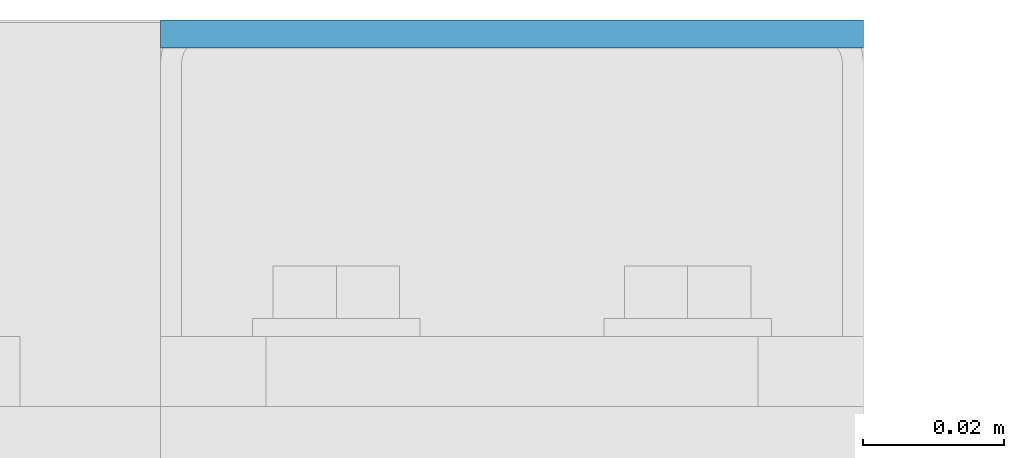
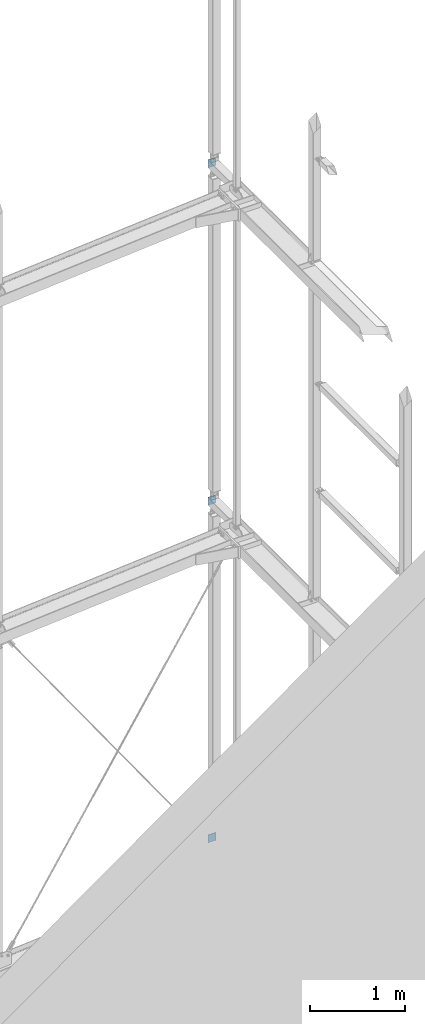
# One storey, part 93 of 271: 3 beams, 3 elements without a shape of their own.
"""IFC2X3 building model written with IfcOpenShell, lengths in millimetres."""

from ifc_helpers import new_model, si_unit, frame, origin_with_axes, origin_2d_with_axis, place, context, subcontext, project, spatial, rectangle, extrude, material, type_object, element, aggregate, save


model = new_model("IFC2X3")

# Units and contexts
model_context = context("Model", 3, precision=1e-05, world=origin_with_axes())
body_context = subcontext(model_context, "Body", "Model", "MODEL_VIEW")
ifc_project = project(units=[si_unit("LENGTHUNIT", "METRE", prefix="MILLI"), si_unit("AREAUNIT", "SQUARE_METRE"), si_unit("VOLUMEUNIT", "CUBIC_METRE"), si_unit("MASSUNIT", "GRAM", prefix="KILO"), si_unit("TIMEUNIT", "SECOND"), si_unit("PLANEANGLEUNIT", "RADIAN"), si_unit("SOLIDANGLEUNIT", "STERADIAN"), si_unit("THERMODYNAMICTEMPERATUREUNIT", "DEGREE_CELSIUS"), si_unit("LUMINOUSINTENSITYUNIT", "LUMEN")], contexts=[model_context])

# Site, building, storey
site_placement = place(None, origin_with_axes())
site = spatial("IfcSite", under=ifc_project, at=site_placement, Name="Undefined", CompositionType="ELEMENT")
building_placement = place(site_placement, origin_with_axes())
building = spatial("IfcBuilding", under=site, at=building_placement, Name="Undefined", CompositionType="ELEMENT")
storey_placement = place(building_placement, origin_with_axes())
storey = spatial("IfcBuildingStorey", under=building, at=storey_placement, Name="Undefined", CompositionType="ELEMENT", Elevation=0.0)

# Assembly, beam
assembly_1_placement = place(storey_placement, origin_with_axes())
assembly_1 = element("IfcElementAssembly", 1, at=assembly_1_placement, inside=storey, AssemblyPlace="NOTDEFINED", PredefinedType="RIGID_FRAME")
ifc_material = material(Name="STEEL/S355JR")
beam_type = type_object("IfcBeamType", Name="BL4*100", PredefinedType="NOTDEFINED")
beam_1_placement = place(assembly_1_placement, frame((12608.3756870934, 4957.32498425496, 1364.34999990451), z_axis=(0.0, 0.0, 1.0), x_axis=(1.0, 0.0, 0.0)))
beam_1 = element("IfcBeam", 2, at=beam_1_placement, type_object=beam_type, material=ifc_material, Name="BLACHA", ObjectType="BL4*100", context=body_context, shape_type="SweptSolid", body=[
    extrude(rectangle(XDim=4.0, YDim=100.0, at=origin_2d_with_axis()), frame((100.0, 0.0, 0.0), z_axis=(-1.0, 0.0, 1.38777878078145e-17), x_axis=(0.0, -1.0, 0.0)), (0.0, 0.0, 1.0), 100.0),
])
aggregate(assembly_1, [beam_1])

assembly_2_placement = place(storey_placement, origin_with_axes())
assembly_2 = element("IfcElementAssembly", 3, at=assembly_2_placement, inside=storey, AssemblyPlace="NOTDEFINED", PredefinedType="RIGID_FRAME")
beam_2_placement = place(assembly_2_placement, frame((12608.3756870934, 4957.32498425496, 5684.34999990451), z_axis=(0.0, 0.0, 1.0), x_axis=(1.0, 0.0, 0.0)))
beam_2 = element("IfcBeam", 4, at=beam_2_placement, type_object=beam_type, material=ifc_material, Name="BLACHA", ObjectType="BL4*100", context=body_context, shape_type="SweptSolid", body=[
    extrude(rectangle(XDim=4.0, YDim=100.0, at=origin_2d_with_axis()), frame((100.0, 0.0, 0.0), z_axis=(-1.0, 0.0, 1.38777878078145e-17), x_axis=(0.0, -1.0, 0.0)), (0.0, 0.0, 1.0), 100.0),
])
aggregate(assembly_2, [beam_2])

assembly_3_placement = place(storey_placement, origin_with_axes())
assembly_3 = element("IfcElementAssembly", 5, at=assembly_3_placement, inside=storey, AssemblyPlace="NOTDEFINED", PredefinedType="RIGID_FRAME")
beam_3_placement = place(assembly_3_placement, frame((12608.3756870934, 4957.32498425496, 10004.3499999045), z_axis=(0.0, 0.0, 1.0), x_axis=(1.0, 0.0, 0.0)))
beam_3 = element("IfcBeam", 6, at=beam_3_placement, type_object=beam_type, material=ifc_material, Name="BLACHA", ObjectType="BL4*100", context=body_context, shape_type="SweptSolid", body=[
    extrude(rectangle(XDim=4.0, YDim=100.0, at=origin_2d_with_axis()), frame((100.0, 0.0, 0.0), z_axis=(-1.0, 0.0, 1.38777878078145e-17), x_axis=(0.0, -1.0, 0.0)), (0.0, 0.0, 1.0), 100.0),
])
aggregate(assembly_3, [beam_3])

save(model, "model.ifc")
